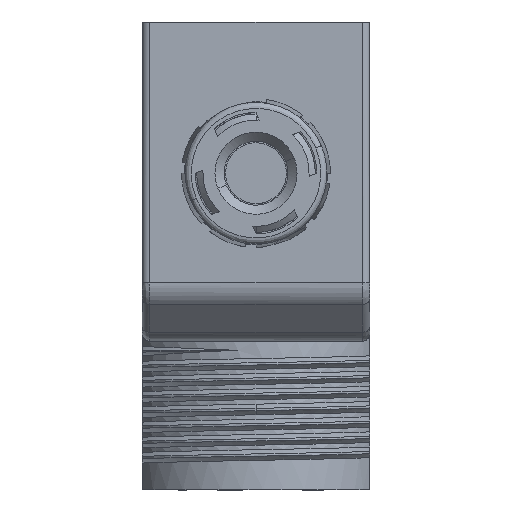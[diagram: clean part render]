
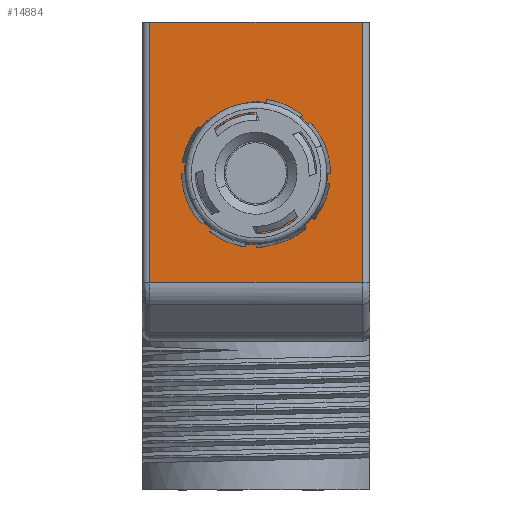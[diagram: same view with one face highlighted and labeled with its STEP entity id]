
A CAD part, left-side view. The second image highlights one B-rep face of the part: STEP entity #14884.
In plain terms, the highlighted planar face has unit normal (1, 0, 0).
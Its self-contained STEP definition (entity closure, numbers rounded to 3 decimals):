
#29 = EDGE_CURVE ( 'NONE', #15358, #8709, #8087, .T. ) ;
#338 = CARTESIAN_POINT ( 'NONE',  ( -35.445, 17.027, 76.681 ) ) ;
#534 = CARTESIAN_POINT ( 'NONE',  ( -35.445, 23.146, 78.325 ) ) ;
#549 = CARTESIAN_POINT ( 'NONE',  ( -35.445, 17.027, 75.791 ) ) ;
#656 = CARTESIAN_POINT ( 'NONE',  ( -35.445, 19.537, 72.924 ) ) ;
#764 = ORIENTED_EDGE ( 'NONE', *, *, #10298, .T. ) ;
#977 = CARTESIAN_POINT ( 'NONE',  ( -35.445, 13.427, 86.186 ) ) ;
#1996 = ORIENTED_EDGE ( 'NONE', *, *, #2320, .T. ) ;
#2157 = CARTESIAN_POINT ( 'NONE',  ( -35.445, 17.456, 77.948 ) ) ;
#2239 = CARTESIAN_POINT ( 'NONE',  ( -35.445, 23.398, 74.523 ) ) ;
#2320 = EDGE_CURVE ( 'NONE', #9206, #13464, #7796, .T. ) ;
#2479 = CARTESIAN_POINT ( 'NONE',  ( -35.445, 27.427, 69.014 ) ) ;
#2946 = DIRECTION ( 'NONE',  ( -1., 0., 0. ) ) ;
#3375 = FACE_OUTER_BOUND ( 'NONE', #14525, .T. ) ;
#3654 = CARTESIAN_POINT ( 'NONE',  ( -35.445, 17.115, 75.346 ) ) ;
#3742 = CARTESIAN_POINT ( 'NONE',  ( -35.445, 23.738, 77.126 ) ) ;
#3905 = VERTEX_POINT ( 'NONE', #2479 ) ;
#3980 = B_SPLINE_CURVE_WITH_KNOTS ( 'NONE', 3,
 ( #15035, #18360, #15355, #16851, #10514, #5691, #2157, #15249, #338, #549, #3654, #6978, #12122, #13841, #8897, #656, #13633, #12231 ),
 .UNSPECIFIED., .F., .F.,
 ( 4, 2, 2, 2, 2, 2, 2, 2, 4 ),
 ( 0., 0.125, 0.25, 0.375, 0.5, 0.625, 0.75, 0.875, 1. ),
 .UNSPECIFIED. ) ;
#4389 = VERTEX_POINT ( 'NONE', #8855 ) ;
#4548 = PLANE ( 'NONE',  #20491 ) ;
#4996 = CARTESIAN_POINT ( 'NONE',  ( -35.445, 27.427, 74.738 ) ) ;
#5350 = CARTESIAN_POINT ( 'NONE',  ( -35.445, 22.516, 73.517 ) ) ;
#5662 = CARTESIAN_POINT ( 'NONE',  ( -35.445, 20.427, 79.636 ) ) ;
#5691 = CARTESIAN_POINT ( 'NONE',  ( -35.445, 17.708, 78.325 ) ) ;
#5713 = ORIENTED_EDGE ( 'NONE', *, *, #29, .F. ) ;
#6978 = CARTESIAN_POINT ( 'NONE',  ( -35.445, 17.456, 74.523 ) ) ;
#7067 = CARTESIAN_POINT ( 'NONE',  ( -35.445, 22.516, 78.955 ) ) ;
#7198 = EDGE_CURVE ( 'NONE', #3905, #4389, #8908, .T. ) ;
#7360 = EDGE_LOOP ( 'NONE', ( #17107, #5713 ) ) ;
#7378 = CARTESIAN_POINT ( 'NONE',  ( -35.445, 20.872, 72.836 ) ) ;
#7796 = B_SPLINE_CURVE_WITH_KNOTS ( 'NONE', 3,
 ( #977, #18888, #17586, #17479 ),
 .UNSPECIFIED., .F., .F.,
 ( 4, 4 ),
 ( 0., 1. ),
 .UNSPECIFIED. ) ;
#7870 = FACE_BOUND ( 'NONE', #7360, .T. ) ;
#7986 = CARTESIAN_POINT ( 'NONE',  ( -35.445, 27.427, 80.462 ) ) ;
#8087 = B_SPLINE_CURVE_WITH_KNOTS ( 'NONE', 3,
 ( #15127, #7378, #20047, #13825, #5350, #20477, #2239, #11896, #18453, #15230, #3742, #8670, #534, #7067, #18555, #10384, #16943, #15337 ),
 .UNSPECIFIED., .F., .F.,
 ( 4, 2, 2, 2, 2, 2, 2, 2, 4 ),
 ( 0., 0.125, 0.25, 0.375, 0.5, 0.625, 0.75, 0.875, 1. ),
 .UNSPECIFIED. ) ;
#8557 = CARTESIAN_POINT ( 'NONE',  ( -35.445, 13.427, 69.014 ) ) ;
#8670 = CARTESIAN_POINT ( 'NONE',  ( -35.445, 23.398, 77.948 ) ) ;
#8709 = VERTEX_POINT ( 'NONE', #5662 ) ;
#8855 = CARTESIAN_POINT ( 'NONE',  ( -35.445, 27.427, 86.186 ) ) ;
#8897 = CARTESIAN_POINT ( 'NONE',  ( -35.445, 18.715, 73.265 ) ) ;
#8908 = B_SPLINE_CURVE_WITH_KNOTS ( 'NONE', 3,
 ( #14870, #4996, #7986, #16483 ),
 .UNSPECIFIED., .F., .F.,
 ( 4, 4 ),
 ( 0., 1. ),
 .UNSPECIFIED. ) ;
#9206 = VERTEX_POINT ( 'NONE', #10775 ) ;
#10298 = EDGE_CURVE ( 'NONE', #4389, #9206, #14292, .T. ) ;
#10384 = CARTESIAN_POINT ( 'NONE',  ( -35.445, 21.317, 79.547 ) ) ;
#10412 = CARTESIAN_POINT ( 'NONE',  ( -35.445, 27.427, 69.014 ) ) ;
#10514 = CARTESIAN_POINT ( 'NONE',  ( -35.445, 18.337, 78.955 ) ) ;
#10522 = CARTESIAN_POINT ( 'NONE',  ( -35.445, 22.76, 69.014 ) ) ;
#10775 = CARTESIAN_POINT ( 'NONE',  ( -35.445, 13.427, 86.186 ) ) ;
#11470 = ORIENTED_EDGE ( 'NONE', *, *, #15575, .F. ) ;
#11896 = CARTESIAN_POINT ( 'NONE',  ( -35.445, 23.738, 75.346 ) ) ;
#12122 = CARTESIAN_POINT ( 'NONE',  ( -35.445, 17.708, 74.146 ) ) ;
#12231 = CARTESIAN_POINT ( 'NONE',  ( -35.445, 20.427, 72.836 ) ) ;
#12846 = CARTESIAN_POINT ( 'NONE',  ( -35.445, 13.427, 86.186 ) ) ;
#13192 = ORIENTED_EDGE ( 'NONE', *, *, #7198, .T. ) ;
#13464 = VERTEX_POINT ( 'NONE', #8557 ) ;
#13633 = CARTESIAN_POINT ( 'NONE',  ( -35.445, 19.982, 72.836 ) ) ;
#13825 = CARTESIAN_POINT ( 'NONE',  ( -35.445, 22.139, 73.265 ) ) ;
#13841 = CARTESIAN_POINT ( 'NONE',  ( -35.445, 18.337, 73.517 ) ) ;
#14292 = B_SPLINE_CURVE_WITH_KNOTS ( 'NONE', 3,
 ( #19499, #19283, #17995, #12846 ),
 .UNSPECIFIED., .F., .F.,
 ( 4, 4 ),
 ( 0., 1. ),
 .UNSPECIFIED. ) ;
#14427 = DIRECTION ( 'NONE',  ( 0., 0., -1. ) ) ;
#14525 = EDGE_LOOP ( 'NONE', ( #764, #1996, #11470, #13192 ) ) ;
#14870 = CARTESIAN_POINT ( 'NONE',  ( -35.445, 27.427, 69.014 ) ) ;
#14884 = ADVANCED_FACE ( 'NONE', ( #7870, #3375 ), #4548, .F. ) ;
#15035 = CARTESIAN_POINT ( 'NONE',  ( -35.445, 20.427, 79.636 ) ) ;
#15127 = CARTESIAN_POINT ( 'NONE',  ( -35.445, 20.427, 72.836 ) ) ;
#15230 = CARTESIAN_POINT ( 'NONE',  ( -35.445, 23.827, 76.681 ) ) ;
#15249 = CARTESIAN_POINT ( 'NONE',  ( -35.445, 17.115, 77.126 ) ) ;
#15337 = CARTESIAN_POINT ( 'NONE',  ( -35.445, 20.427, 79.636 ) ) ;
#15355 = CARTESIAN_POINT ( 'NONE',  ( -35.445, 19.537, 79.547 ) ) ;
#15358 = VERTEX_POINT ( 'NONE', #21161 ) ;
#15575 = EDGE_CURVE ( 'NONE', #3905, #13464, #20763, .T. ) ;
#16483 = CARTESIAN_POINT ( 'NONE',  ( -35.445, 27.427, 86.186 ) ) ;
#16851 = CARTESIAN_POINT ( 'NONE',  ( -35.445, 18.715, 79.207 ) ) ;
#16943 = CARTESIAN_POINT ( 'NONE',  ( -35.445, 20.872, 79.636 ) ) ;
#16967 = CARTESIAN_POINT ( 'NONE',  ( -35.445, 18.094, 69.014 ) ) ;
#17075 = CARTESIAN_POINT ( 'NONE',  ( -35.445, 13.427, 69.014 ) ) ;
#17107 = ORIENTED_EDGE ( 'NONE', *, *, #19415, .F. ) ;
#17479 = CARTESIAN_POINT ( 'NONE',  ( -35.445, 13.427, 69.014 ) ) ;
#17586 = CARTESIAN_POINT ( 'NONE',  ( -35.445, 13.427, 74.738 ) ) ;
#17645 = CARTESIAN_POINT ( 'NONE',  ( -35.445, 12.927, 65.486 ) ) ;
#17995 = CARTESIAN_POINT ( 'NONE',  ( -35.445, 18.094, 86.186 ) ) ;
#18360 = CARTESIAN_POINT ( 'NONE',  ( -35.445, 19.982, 79.636 ) ) ;
#18453 = CARTESIAN_POINT ( 'NONE',  ( -35.445, 23.827, 75.791 ) ) ;
#18555 = CARTESIAN_POINT ( 'NONE',  ( -35.445, 22.139, 79.207 ) ) ;
#18888 = CARTESIAN_POINT ( 'NONE',  ( -35.445, 13.427, 80.462 ) ) ;
#19283 = CARTESIAN_POINT ( 'NONE',  ( -35.445, 22.76, 86.186 ) ) ;
#19415 = EDGE_CURVE ( 'NONE', #8709, #15358, #3980, .T. ) ;
#19499 = CARTESIAN_POINT ( 'NONE',  ( -35.445, 27.427, 86.186 ) ) ;
#20047 = CARTESIAN_POINT ( 'NONE',  ( -35.445, 21.317, 72.924 ) ) ;
#20477 = CARTESIAN_POINT ( 'NONE',  ( -35.445, 23.146, 74.146 ) ) ;
#20491 = AXIS2_PLACEMENT_3D ( 'NONE', #17645, #2946, #14427 ) ;
#20763 = B_SPLINE_CURVE_WITH_KNOTS ( 'NONE', 3,
 ( #10412, #10522, #16967, #17075 ),
 .UNSPECIFIED., .F., .F.,
 ( 4, 4 ),
 ( 0., 1. ),
 .UNSPECIFIED. ) ;
#21161 = CARTESIAN_POINT ( 'NONE',  ( -35.445, 20.427, 72.836 ) ) ;
